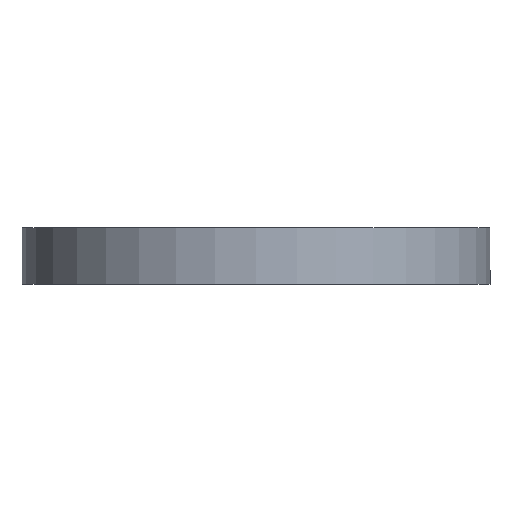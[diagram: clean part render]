
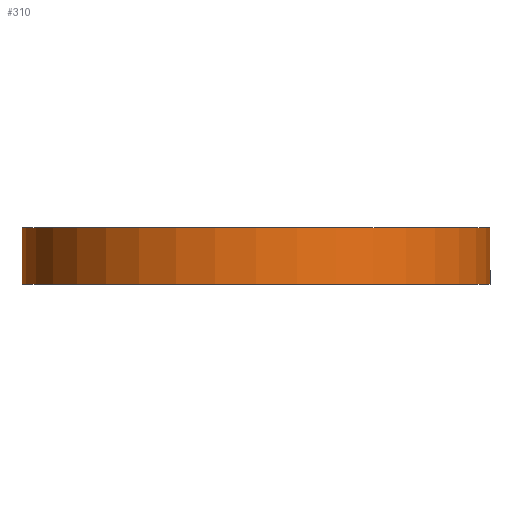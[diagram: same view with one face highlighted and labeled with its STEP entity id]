
A CAD part, front view. The second image highlights one B-rep face of the part: STEP entity #310.
In plain terms, the highlighted cylindrical face has radius 100 mm (diameter 200 mm), a partial arc.
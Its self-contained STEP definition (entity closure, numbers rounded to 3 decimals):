
#43 = CIRCLE ( 'NONE', #44, 100. ) ;
#44 = AXIS2_PLACEMENT_3D ( 'NONE', #214, #213, #212 ) ;
#48 = VECTOR ( 'NONE', #376, 1000. ) ;
#86 = EDGE_CURVE ( 'NONE', #406, #570, #374, .T. ) ;
#142 = CARTESIAN_POINT ( 'NONE',  ( -100., 0., -24. ) ) ;
#172 = CARTESIAN_POINT ( 'NONE',  ( 100., 0., 0. ) ) ;
#206 = EDGE_CURVE ( 'NONE', #663, #398, #426, .T. ) ;
#212 = DIRECTION ( 'NONE',  ( -1., 0., 0. ) ) ;
#213 = DIRECTION ( 'NONE',  ( 0., 0., -1. ) ) ;
#214 = CARTESIAN_POINT ( 'NONE',  ( 0., 0., -24. ) ) ;
#244 = DIRECTION ( 'NONE',  ( 1., 0., 0. ) ) ;
#263 = CARTESIAN_POINT ( 'NONE',  ( 100., 0., -24. ) ) ;
#284 = DIRECTION ( 'NONE',  ( 0., 0., 1. ) ) ;
#308 = VECTOR ( 'NONE', #428, 1000. ) ;
#310 = ADVANCED_FACE ( 'NONE', ( #481 ), #482, .T. ) ;
#338 = AXIS2_PLACEMENT_3D ( 'NONE', #361, #284, #244 ) ;
#339 = CIRCLE ( 'NONE', #338, 100. ) ;
#361 = CARTESIAN_POINT ( 'NONE',  ( 0., 0., 0. ) ) ;
#374 = LINE ( 'NONE', #375, #48 ) ;
#375 = CARTESIAN_POINT ( 'NONE',  ( 100., 0., -68. ) ) ;
#376 = DIRECTION ( 'NONE',  ( 0., 0., 1. ) ) ;
#398 = VERTEX_POINT ( 'NONE', #546 ) ;
#406 = VERTEX_POINT ( 'NONE', #263 ) ;
#426 = LINE ( 'NONE', #427, #308 ) ;
#427 = CARTESIAN_POINT ( 'NONE',  ( -100., 0., -68. ) ) ;
#428 = DIRECTION ( 'NONE',  ( 0., 0., 1. ) ) ;
#444 = EDGE_CURVE ( 'NONE', #398, #570, #339, .T. ) ;
#481 = FACE_OUTER_BOUND ( 'NONE', #707, .T. ) ;
#482 = CYLINDRICAL_SURFACE ( 'NONE', #515, 100. ) ;
#483 = CARTESIAN_POINT ( 'NONE',  ( 0., 0., -68. ) ) ;
#484 = DIRECTION ( 'NONE',  ( 0., 0., 1. ) ) ;
#485 = DIRECTION ( 'NONE',  ( 1., 0., 0. ) ) ;
#515 = AXIS2_PLACEMENT_3D ( 'NONE', #483, #484, #485 ) ;
#524 = EDGE_CURVE ( 'NONE', #406, #663, #43, .T. ) ;
#546 = CARTESIAN_POINT ( 'NONE',  ( -100., 0., 0. ) ) ;
#570 = VERTEX_POINT ( 'NONE', #172 ) ;
#621 = ORIENTED_EDGE ( 'NONE', *, *, #206, .F. ) ;
#622 = ORIENTED_EDGE ( 'NONE', *, *, #524, .F. ) ;
#623 = ORIENTED_EDGE ( 'NONE', *, *, #86, .T. ) ;
#624 = ORIENTED_EDGE ( 'NONE', *, *, #444, .F. ) ;
#663 = VERTEX_POINT ( 'NONE', #142 ) ;
#707 = EDGE_LOOP ( 'NONE', ( #621, #622, #623, #624 ) ) ;
